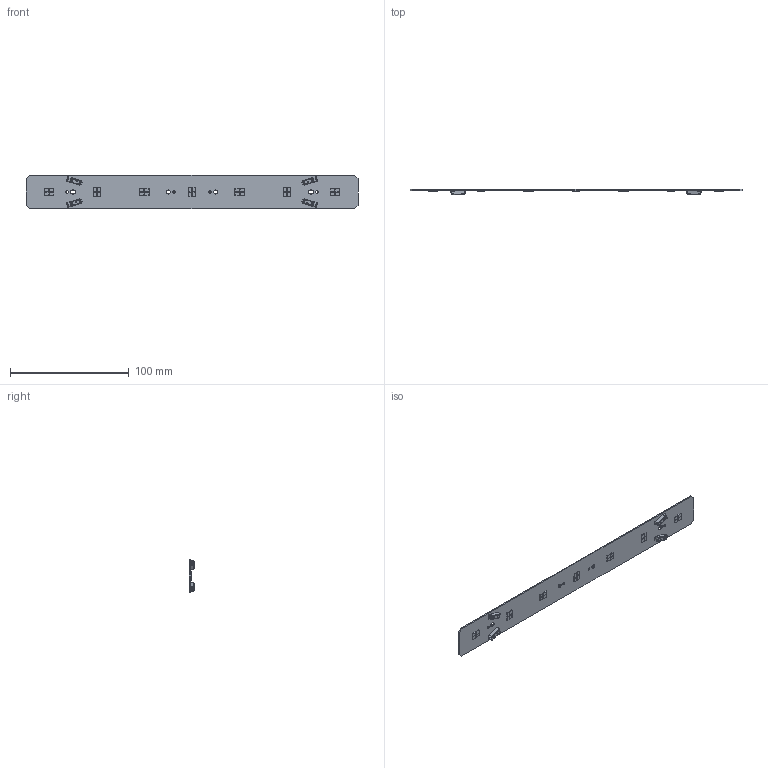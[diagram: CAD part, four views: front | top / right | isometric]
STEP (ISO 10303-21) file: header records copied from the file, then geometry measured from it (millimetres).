
FILE_DESCRIPTION(/* description */ ('Unknown'),/* implementation_level */ '2;1');
FILE_NAME(/* name */ 'LinLED 280x28mm 1100lm 4C DAISY 7x1 sh-000 2021-07-15',/* time_stamp */ '2021-07-15T10:56:18+02:00',/* author */ ('Unknown'),/* organization */ ('Unknown'),/* preprocessor_version */ 'ST-DEVELOPER v16.7',/* originating_system */ 'Solid Edge',/* authorisation */ 'Unknown');
FILE_SCHEMA (('AUTOMOTIVE_DESIGN {1 0 10303 214 3 1 1}'));
Products named in the file (1): LinLED 280x28mm 1100lm 4C DAISY 7x1 sh-000 2021-07-15
Bounding box: 279 x 4.45 x 28 mm (x, y, z)
Volume: 8387.3 mm3; surface area: 17209.5 mm2
Topology: 1 solids, 1 shells, 1422 faces, 3684 edges, 2320 vertices
Faces by surface type: plane 838, cylinder 264, bspline 208, cone 60, sphere 32, torus 20
Full cylindrical faces by diameter (mm): 2 x2, 3.4 x2
Entity records: 58385 total; most frequent: CARTESIAN_POINT 15923, ORIENTED_EDGE 7256, DIRECTION 5794, EDGE_CURVE 3628, LINE 2388, VECTOR 2388, VERTEX_POINT 2304, AXIS2_PLACEMENT_3D 1703
